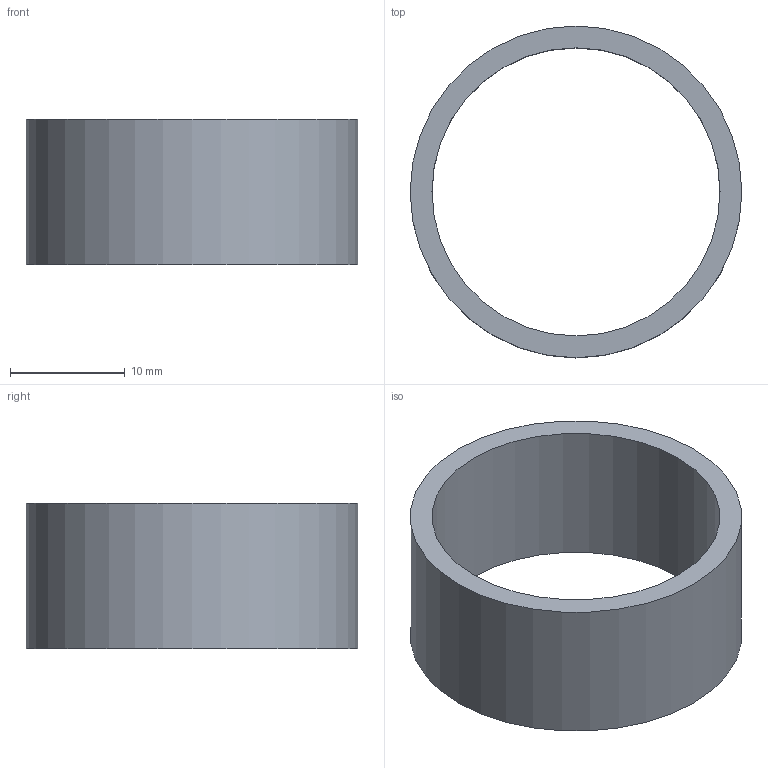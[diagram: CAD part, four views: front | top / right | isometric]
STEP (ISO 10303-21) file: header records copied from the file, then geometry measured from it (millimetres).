
FILE_DESCRIPTION(/* description */ ('STEP AP242','CAx-IF Rec.Pracs.---Representation and Presentation of Product Manufacturing Information (PMI)---4.0---2014-10-13','CAx-IF Rec.Pracs.---3D Tessellated Geometry---0.4---2014-09-14','2;1'),/* implementation_level */ '2;1');
FILE_NAME(/* name */ '64ec6942297df82481f79867',/* time_stamp */ '2023-08-28T09:30:42Z',/* author */ (''),/* organization */ (''),/* preprocessor_version */ 'ST-DEVELOPER v19.4',/* originating_system */ ' ',/* authorisation */ ' ');
FILE_SCHEMA (('AP242_MANAGED_MODEL_BASED_3D_ENGINEERING_MIM_LF { 1 0 10303 442 1 1 4 }'));
Length unit declared in the file: metre
Products named in the file (1): Part 1
Bounding box: 28.96 x 28.96 x 12.7 mm (x, y, z)
Volume: 2056 mm3; surface area: 2482.4 mm2
Topology: 1 solids, 1 shells, 4 faces, 6 edges, 4 vertices
Faces by surface type: cylinder 2, plane 2
Full cylindrical faces by diameter (mm): 25.146 x1, 28.956 x1
Entity records: 110 total; most frequent: DIRECTION 18, CARTESIAN_POINT 13, AXIS2_PLACEMENT_3D 9, ORIENTED_EDGE 8, EDGE_LOOP 8, FACE_BOUND 8, EDGE_CURVE 4, VERTEX_POINT 4
